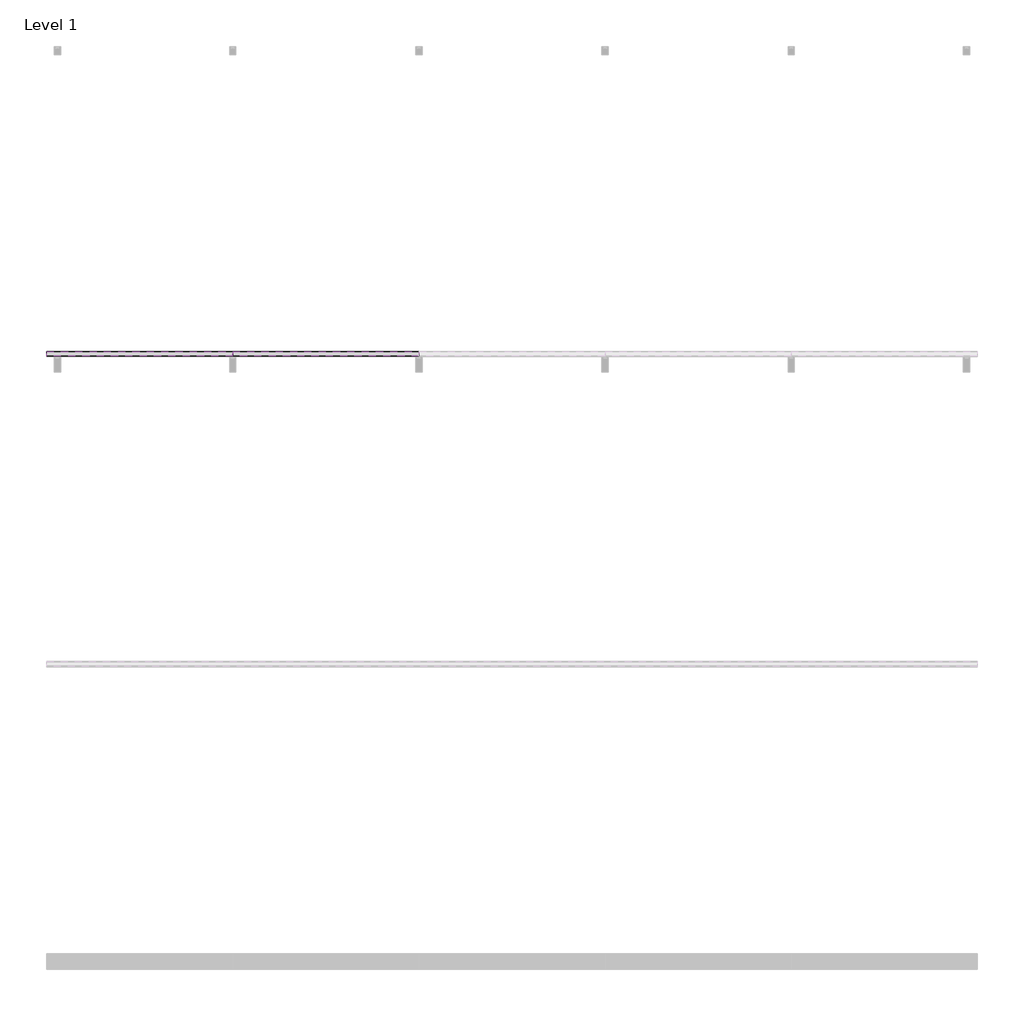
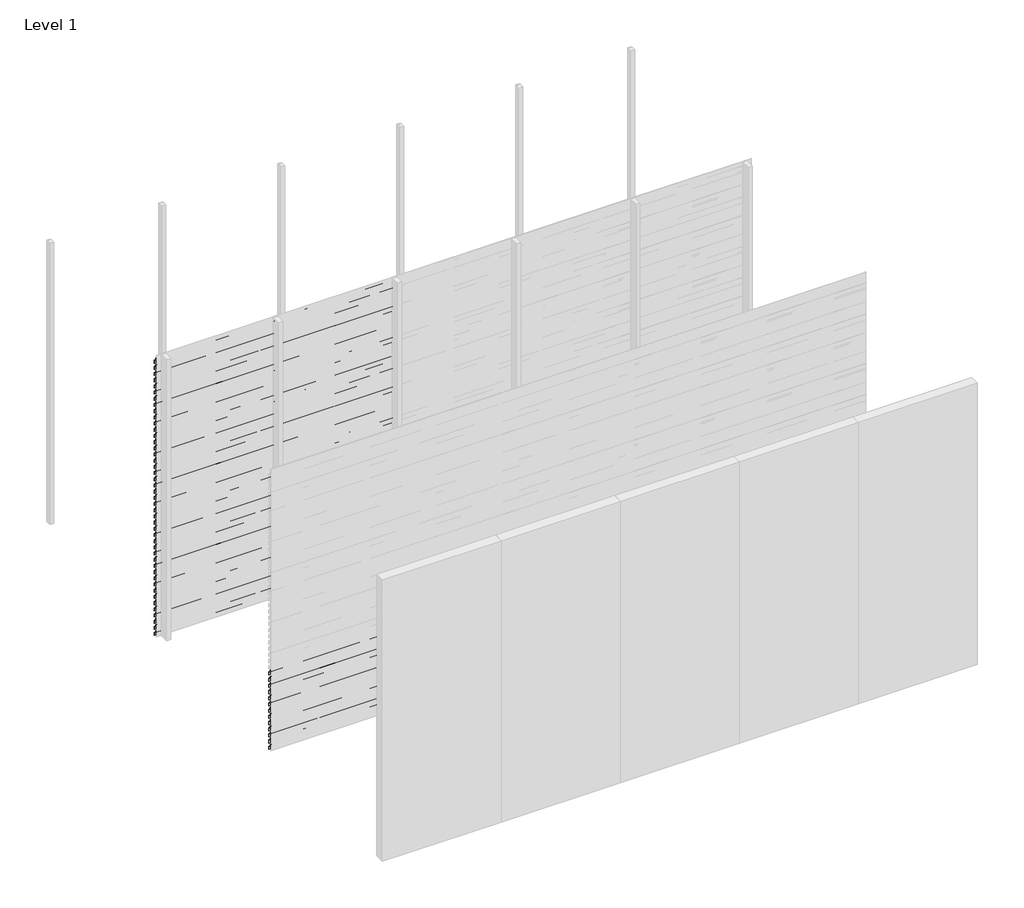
# One storey, part 13 of 33: 88 proxies.
"""IFC4 building model written with IfcOpenShell, lengths in millimetres."""

from ifc_helpers import new_model, si_unit, frame, origin, place, context, project, spatial, polyline, outline, extrude, element, save

model = new_model("IFC4")

# Units and contexts
model_context = context("Model", 3, world=origin())
ifc_project = project(units=[si_unit("LENGTHUNIT", "METRE", prefix="MILLI")], contexts=[model_context])

# Site, building, storey
site = spatial("IfcSite", under=ifc_project)
building = spatial("IfcBuilding", under=site)
storey = spatial("IfcBuildingStorey", under=building, Name="Level 1", Elevation=0.0)

# Proxies
placement = place(None, origin())
element("IfcBuildingElementProxy", 1, Name="Wall Sweeps", at=placement, inside=storey, context=model_context, shape_type="SweptSolid", body=[
    extrude(outline(polyline([(-35967.0, 2930.0), (-35967.0, 2897.0), (-35968.25, 2897.7216933), (-35968.25, 2929.2872415), (-35998.0, 2950.0588647), (-35998.0, 2970.0), (-35996.75, 2970.0), (-35996.75, 2950.7716232), (-35967.0, 2930.0)])), frame((0.0, 0.0, 0.0), z_axis=(1.0, 0.0, 0.0), x_axis=(0.0, 1.0, 0.0)), (0.0, 0.0, 1.0), 1200.0),
])
element("IfcBuildingElementProxy", 2, Name="Wall Sweeps", at=placement, inside=storey, context=model_context, shape_type="SweptSolid", body=[
    extrude(outline(polyline([(-35967.0, 2864.0), (-35967.0, 2831.0), (-35968.25, 2831.7216933), (-35968.25, 2863.2872415), (-35998.0, 2884.0588647), (-35998.0, 2904.0), (-35996.75, 2904.0), (-35996.75, 2884.7716232), (-35967.0, 2864.0)])), frame((0.0, 0.0, 0.0), z_axis=(1.0, 0.0, 0.0), x_axis=(0.0, 1.0, 0.0)), (0.0, 0.0, 1.0), 1200.0),
])
element("IfcBuildingElementProxy", 3, Name="Wall Sweeps", at=placement, inside=storey, context=model_context, shape_type="SweptSolid", body=[
    extrude(outline(polyline([(-35967.0, 2798.0), (-35967.0, 2765.0), (-35968.25, 2765.7216933), (-35968.25, 2797.2872415), (-35998.0, 2818.0588647), (-35998.0, 2838.0), (-35996.75, 2838.0), (-35996.75, 2818.7716232), (-35967.0, 2798.0)])), frame((0.0, 0.0, 0.0), z_axis=(1.0, 0.0, 0.0), x_axis=(0.0, 1.0, 0.0)), (0.0, 0.0, 1.0), 1200.0),
])
element("IfcBuildingElementProxy", 4, Name="Wall Sweeps", at=placement, inside=storey, context=model_context, shape_type="SweptSolid", body=[
    extrude(outline(polyline([(-35967.0, 2732.0), (-35967.0, 2699.0), (-35968.25, 2699.7216933), (-35968.25, 2731.2872415), (-35998.0, 2752.0588647), (-35998.0, 2772.0), (-35996.75, 2772.0), (-35996.75, 2752.7716232), (-35967.0, 2732.0)])), frame((0.0, 0.0, 0.0), z_axis=(1.0, 0.0, 0.0), x_axis=(0.0, 1.0, 0.0)), (0.0, 0.0, 1.0), 1200.0),
])
element("IfcBuildingElementProxy", 5, Name="Wall Sweeps", at=placement, inside=storey, context=model_context, shape_type="SweptSolid", body=[
    extrude(outline(polyline([(-35967.0, 2666.0), (-35967.0, 2633.0), (-35968.25, 2633.7216933), (-35968.25, 2665.2872415), (-35998.0, 2686.0588647), (-35998.0, 2706.0), (-35996.75, 2706.0), (-35996.75, 2686.7716232), (-35967.0, 2666.0)])), frame((0.0, 0.0, 0.0), z_axis=(1.0, 0.0, 0.0), x_axis=(0.0, 1.0, 0.0)), (0.0, 0.0, 1.0), 1200.0),
])
element("IfcBuildingElementProxy", 6, Name="Wall Sweeps", at=placement, inside=storey, context=model_context, shape_type="SweptSolid", body=[
    extrude(outline(polyline([(-35967.0, 2600.0), (-35967.0, 2567.0), (-35968.25, 2567.7216933), (-35968.25, 2599.2872415), (-35998.0, 2620.0588647), (-35998.0, 2640.0), (-35996.75, 2640.0), (-35996.75, 2620.7716232), (-35967.0, 2600.0)])), frame((0.0, 0.0, 0.0), z_axis=(1.0, 0.0, 0.0), x_axis=(0.0, 1.0, 0.0)), (0.0, 0.0, 1.0), 1200.0),
])
element("IfcBuildingElementProxy", 7, Name="Wall Sweeps", at=placement, inside=storey, context=model_context, shape_type="SweptSolid", body=[
    extrude(outline(polyline([(-35967.0, 2534.0), (-35967.0, 2501.0), (-35968.25, 2501.7216933), (-35968.25, 2533.2872415), (-35998.0, 2554.0588647), (-35998.0, 2574.0), (-35996.75, 2574.0), (-35996.75, 2554.7716232), (-35967.0, 2534.0)])), frame((0.0, 0.0, 0.0), z_axis=(1.0, 0.0, 0.0), x_axis=(0.0, 1.0, 0.0)), (0.0, 0.0, 1.0), 1200.0),
])
element("IfcBuildingElementProxy", 8, Name="Wall Sweeps", at=placement, inside=storey, context=model_context, shape_type="SweptSolid", body=[
    extrude(outline(polyline([(-35967.0, 2468.0), (-35967.0, 2435.0), (-35968.25, 2435.7216933), (-35968.25, 2467.2872415), (-35998.0, 2488.0588647), (-35998.0, 2508.0), (-35996.75, 2508.0), (-35996.75, 2488.7716232), (-35967.0, 2468.0)])), frame((0.0, 0.0, 0.0), z_axis=(1.0, 0.0, 0.0), x_axis=(0.0, 1.0, 0.0)), (0.0, 0.0, 1.0), 1200.0),
])
element("IfcBuildingElementProxy", 9, Name="Wall Sweeps", at=placement, inside=storey, context=model_context, shape_type="SweptSolid", body=[
    extrude(outline(polyline([(-35967.0, 2402.0), (-35967.0, 2369.0), (-35968.25, 2369.7216933), (-35968.25, 2401.2872415), (-35998.0, 2422.0588647), (-35998.0, 2442.0), (-35996.75, 2442.0), (-35996.75, 2422.7716232), (-35967.0, 2402.0)])), frame((0.0, 0.0, 0.0), z_axis=(1.0, 0.0, 0.0), x_axis=(0.0, 1.0, 0.0)), (0.0, 0.0, 1.0), 1200.0),
])
element("IfcBuildingElementProxy", 10, Name="Wall Sweeps", at=placement, inside=storey, context=model_context, shape_type="SweptSolid", body=[
    extrude(outline(polyline([(-35967.0, 2336.0), (-35967.0, 2303.0), (-35968.25, 2303.7216933), (-35968.25, 2335.2872415), (-35998.0, 2356.0588647), (-35998.0, 2376.0), (-35996.75, 2376.0), (-35996.75, 2356.7716232), (-35967.0, 2336.0)])), frame((0.0, 0.0, 0.0), z_axis=(1.0, 0.0, 0.0), x_axis=(0.0, 1.0, 0.0)), (0.0, 0.0, 1.0), 1200.0),
])
element("IfcBuildingElementProxy", 11, Name="Wall Sweeps", at=placement, inside=storey, context=model_context, shape_type="SweptSolid", body=[
    extrude(outline(polyline([(-35967.0, 2270.0), (-35967.0, 2237.0), (-35968.25, 2237.7216933), (-35968.25, 2269.2872415), (-35998.0, 2290.0588647), (-35998.0, 2310.0), (-35996.75, 2310.0), (-35996.75, 2290.7716232), (-35967.0, 2270.0)])), frame((0.0, 0.0, 0.0), z_axis=(1.0, 0.0, 0.0), x_axis=(0.0, 1.0, 0.0)), (0.0, 0.0, 1.0), 1200.0),
])
element("IfcBuildingElementProxy", 12, Name="Wall Sweeps", at=placement, inside=storey, context=model_context, shape_type="SweptSolid", body=[
    extrude(outline(polyline([(-35967.0, 2204.0), (-35967.0, 2171.0), (-35968.25, 2171.7216933), (-35968.25, 2203.2872415), (-35998.0, 2224.0588647), (-35998.0, 2244.0), (-35996.75, 2244.0), (-35996.75, 2224.7716232), (-35967.0, 2204.0)])), frame((0.0, 0.0, 0.0), z_axis=(1.0, 0.0, 0.0), x_axis=(0.0, 1.0, 0.0)), (0.0, 0.0, 1.0), 1200.0),
])
element("IfcBuildingElementProxy", 13, Name="Wall Sweeps", at=placement, inside=storey, context=model_context, shape_type="SweptSolid", body=[
    extrude(outline(polyline([(-35967.0, 2138.0), (-35967.0, 2105.0), (-35968.25, 2105.7216933), (-35968.25, 2137.2872415), (-35998.0, 2158.0588647), (-35998.0, 2178.0), (-35996.75, 2178.0), (-35996.75, 2158.7716232), (-35967.0, 2138.0)])), frame((0.0, 0.0, 0.0), z_axis=(1.0, 0.0, 0.0), x_axis=(0.0, 1.0, 0.0)), (0.0, 0.0, 1.0), 1200.0),
])
element("IfcBuildingElementProxy", 14, Name="Wall Sweeps", at=placement, inside=storey, context=model_context, shape_type="SweptSolid", body=[
    extrude(outline(polyline([(-35967.0, 2072.0), (-35967.0, 2039.0), (-35968.25, 2039.7216933), (-35968.25, 2071.2872415), (-35998.0, 2092.0588647), (-35998.0, 2112.0), (-35996.75, 2112.0), (-35996.75, 2092.7716232), (-35967.0, 2072.0)])), frame((0.0, 0.0, 0.0), z_axis=(1.0, 0.0, 0.0), x_axis=(0.0, 1.0, 0.0)), (0.0, 0.0, 1.0), 1200.0),
])
element("IfcBuildingElementProxy", 15, Name="Wall Sweeps", at=placement, inside=storey, context=model_context, shape_type="SweptSolid", body=[
    extrude(outline(polyline([(-35967.0, 2006.0), (-35967.0, 1973.0), (-35968.25, 1973.7216933), (-35968.25, 2005.2872415), (-35998.0, 2026.0588647), (-35998.0, 2046.0), (-35996.75, 2046.0), (-35996.75, 2026.7716232), (-35967.0, 2006.0)])), frame((0.0, 0.0, 0.0), z_axis=(1.0, 0.0, 0.0), x_axis=(0.0, 1.0, 0.0)), (0.0, 0.0, 1.0), 1200.0),
])
element("IfcBuildingElementProxy", 16, Name="Wall Sweeps", at=placement, inside=storey, context=model_context, shape_type="SweptSolid", body=[
    extrude(outline(polyline([(-35967.0, 1940.0), (-35967.0, 1907.0), (-35968.25, 1907.7216933), (-35968.25, 1939.2872415), (-35998.0, 1960.0588647), (-35998.0, 1980.0), (-35996.75, 1980.0), (-35996.75, 1960.7716232), (-35967.0, 1940.0)])), frame((0.0, 0.0, 0.0), z_axis=(1.0, 0.0, 0.0), x_axis=(0.0, 1.0, 0.0)), (0.0, 0.0, 1.0), 1200.0),
])
element("IfcBuildingElementProxy", 17, Name="Wall Sweeps", at=placement, inside=storey, context=model_context, shape_type="SweptSolid", body=[
    extrude(outline(polyline([(-35967.0, 1874.0), (-35967.0, 1841.0), (-35968.25, 1841.7216933), (-35968.25, 1873.2872415), (-35998.0, 1894.0588647), (-35998.0, 1914.0), (-35996.75, 1914.0), (-35996.75, 1894.7716232), (-35967.0, 1874.0)])), frame((0.0, 0.0, 0.0), z_axis=(1.0, 0.0, 0.0), x_axis=(0.0, 1.0, 0.0)), (0.0, 0.0, 1.0), 1200.0),
])
element("IfcBuildingElementProxy", 18, Name="Wall Sweeps", at=placement, inside=storey, context=model_context, shape_type="SweptSolid", body=[
    extrude(outline(polyline([(-35967.0, 1808.0), (-35967.0, 1775.0), (-35968.25, 1775.7216933), (-35968.25, 1807.2872415), (-35998.0, 1828.0588647), (-35998.0, 1848.0), (-35996.75, 1848.0), (-35996.75, 1828.7716232), (-35967.0, 1808.0)])), frame((0.0, 0.0, 0.0), z_axis=(1.0, 0.0, 0.0), x_axis=(0.0, 1.0, 0.0)), (0.0, 0.0, 1.0), 1200.0),
])
element("IfcBuildingElementProxy", 19, Name="Wall Sweeps", at=placement, inside=storey, context=model_context, shape_type="SweptSolid", body=[
    extrude(outline(polyline([(-35967.0, 1742.0), (-35967.0, 1709.0), (-35968.25, 1709.7216933), (-35968.25, 1741.2872415), (-35998.0, 1762.0588647), (-35998.0, 1782.0), (-35996.75, 1782.0), (-35996.75, 1762.7716232), (-35967.0, 1742.0)])), frame((0.0, 0.0, 0.0), z_axis=(1.0, 0.0, 0.0), x_axis=(0.0, 1.0, 0.0)), (0.0, 0.0, 1.0), 1200.0),
])
element("IfcBuildingElementProxy", 20, Name="Wall Sweeps", at=placement, inside=storey, context=model_context, shape_type="SweptSolid", body=[
    extrude(outline(polyline([(-35967.0, 1676.0), (-35967.0, 1643.0), (-35968.25, 1643.7216933), (-35968.25, 1675.2872415), (-35998.0, 1696.0588647), (-35998.0, 1716.0), (-35996.75, 1716.0), (-35996.75, 1696.7716232), (-35967.0, 1676.0)])), frame((0.0, 0.0, 0.0), z_axis=(1.0, 0.0, 0.0), x_axis=(0.0, 1.0, 0.0)), (0.0, 0.0, 1.0), 1200.0),
])
element("IfcBuildingElementProxy", 21, Name="Wall Sweeps", at=placement, inside=storey, context=model_context, shape_type="SweptSolid", body=[
    extrude(outline(polyline([(-35967.0, 1610.0), (-35967.0, 1577.0), (-35968.25, 1577.7216933), (-35968.25, 1609.2872415), (-35998.0, 1630.0588647), (-35998.0, 1650.0), (-35996.75, 1650.0), (-35996.75, 1630.7716232), (-35967.0, 1610.0)])), frame((0.0, 0.0, 0.0), z_axis=(1.0, 0.0, 0.0), x_axis=(0.0, 1.0, 0.0)), (0.0, 0.0, 1.0), 1200.0),
])
element("IfcBuildingElementProxy", 22, Name="Wall Sweeps", at=placement, inside=storey, context=model_context, shape_type="SweptSolid", body=[
    extrude(outline(polyline([(-35967.0, 1544.0), (-35967.0, 1511.0), (-35968.25, 1511.7216933), (-35968.25, 1543.2872415), (-35998.0, 1564.0588647), (-35998.0, 1584.0), (-35996.75, 1584.0), (-35996.75, 1564.7716232), (-35967.0, 1544.0)])), frame((0.0, 0.0, 0.0), z_axis=(1.0, 0.0, 0.0), x_axis=(0.0, 1.0, 0.0)), (0.0, 0.0, 1.0), 1200.0),
])
element("IfcBuildingElementProxy", 23, Name="Wall Sweeps", at=placement, inside=storey, context=model_context, shape_type="SweptSolid", body=[
    extrude(outline(polyline([(-35967.0, 1478.0), (-35967.0, 1445.0), (-35968.25, 1445.7216933), (-35968.25, 1477.2872415), (-35998.0, 1498.0588647), (-35998.0, 1518.0), (-35996.75, 1518.0), (-35996.75, 1498.7716232), (-35967.0, 1478.0)])), frame((0.0, 0.0, 0.0), z_axis=(1.0, 0.0, 0.0), x_axis=(0.0, 1.0, 0.0)), (0.0, 0.0, 1.0), 1200.0),
])
element("IfcBuildingElementProxy", 24, Name="Wall Sweeps", at=placement, inside=storey, context=model_context, shape_type="SweptSolid", body=[
    extrude(outline(polyline([(-35967.0, 1412.0), (-35967.0, 1379.0), (-35968.25, 1379.7216933), (-35968.25, 1411.2872415), (-35998.0, 1432.0588647), (-35998.0, 1452.0), (-35996.75, 1452.0), (-35996.75, 1432.7716232), (-35967.0, 1412.0)])), frame((0.0, 0.0, 0.0), z_axis=(1.0, 0.0, 0.0), x_axis=(0.0, 1.0, 0.0)), (0.0, 0.0, 1.0), 1200.0),
])
element("IfcBuildingElementProxy", 25, Name="Wall Sweeps", at=placement, inside=storey, context=model_context, shape_type="SweptSolid", body=[
    extrude(outline(polyline([(-35967.0, 1346.0), (-35967.0, 1313.0), (-35968.25, 1313.7216933), (-35968.25, 1345.2872415), (-35998.0, 1366.0588647), (-35998.0, 1386.0), (-35996.75, 1386.0), (-35996.75, 1366.7716232), (-35967.0, 1346.0)])), frame((0.0, 0.0, 0.0), z_axis=(1.0, 0.0, 0.0), x_axis=(0.0, 1.0, 0.0)), (0.0, 0.0, 1.0), 1200.0),
])
element("IfcBuildingElementProxy", 26, Name="Wall Sweeps", at=placement, inside=storey, context=model_context, shape_type="SweptSolid", body=[
    extrude(outline(polyline([(-35967.0, 1280.0), (-35967.0, 1247.0), (-35968.25, 1247.7216933), (-35968.25, 1279.2872415), (-35998.0, 1300.0588647), (-35998.0, 1320.0), (-35996.75, 1320.0), (-35996.75, 1300.7716232), (-35967.0, 1280.0)])), frame((0.0, 0.0, 0.0), z_axis=(1.0, 0.0, 0.0), x_axis=(0.0, 1.0, 0.0)), (0.0, 0.0, 1.0), 1200.0),
])
element("IfcBuildingElementProxy", 27, Name="Wall Sweeps", at=placement, inside=storey, context=model_context, shape_type="SweptSolid", body=[
    extrude(outline(polyline([(-35967.0, 1214.0), (-35967.0, 1181.0), (-35968.25, 1181.7216933), (-35968.25, 1213.2872415), (-35998.0, 1234.0588647), (-35998.0, 1254.0), (-35996.75, 1254.0), (-35996.75, 1234.7716232), (-35967.0, 1214.0)])), frame((0.0, 0.0, 0.0), z_axis=(1.0, 0.0, 0.0), x_axis=(0.0, 1.0, 0.0)), (0.0, 0.0, 1.0), 1200.0),
])
element("IfcBuildingElementProxy", 28, Name="Wall Sweeps", at=placement, inside=storey, context=model_context, shape_type="SweptSolid", body=[
    extrude(outline(polyline([(-35967.0, 1148.0), (-35967.0, 1115.0), (-35968.25, 1115.7216933), (-35968.25, 1147.2872415), (-35998.0, 1168.0588647), (-35998.0, 1188.0), (-35996.75, 1188.0), (-35996.75, 1168.7716232), (-35967.0, 1148.0)])), frame((0.0, 0.0, 0.0), z_axis=(1.0, 0.0, 0.0), x_axis=(0.0, 1.0, 0.0)), (0.0, 0.0, 1.0), 1200.0),
])
element("IfcBuildingElementProxy", 29, Name="Wall Sweeps", at=placement, inside=storey, context=model_context, shape_type="SweptSolid", body=[
    extrude(outline(polyline([(-35967.0, 1082.0), (-35967.0, 1049.0), (-35968.25, 1049.7216933), (-35968.25, 1081.2872415), (-35998.0, 1102.0588647), (-35998.0, 1122.0), (-35996.75, 1122.0), (-35996.75, 1102.7716232), (-35967.0, 1082.0)])), frame((0.0, 0.0, 0.0), z_axis=(1.0, 0.0, 0.0), x_axis=(0.0, 1.0, 0.0)), (0.0, 0.0, 1.0), 1200.0),
])
element("IfcBuildingElementProxy", 30, Name="Wall Sweeps", at=placement, inside=storey, context=model_context, shape_type="SweptSolid", body=[
    extrude(outline(polyline([(-35967.0, 1016.0), (-35967.0, 983.0), (-35968.25, 983.7216933), (-35968.25, 1015.2872415), (-35998.0, 1036.0588647), (-35998.0, 1056.0), (-35996.75, 1056.0), (-35996.75, 1036.7716232), (-35967.0, 1016.0)])), frame((0.0, 0.0, 0.0), z_axis=(1.0, 0.0, 0.0), x_axis=(0.0, 1.0, 0.0)), (0.0, 0.0, 1.0), 1200.0),
])
element("IfcBuildingElementProxy", 31, Name="Wall Sweeps", at=placement, inside=storey, context=model_context, shape_type="SweptSolid", body=[
    extrude(outline(polyline([(-35967.0, 950.0), (-35967.0, 917.0), (-35968.25, 917.7216933), (-35968.25, 949.2872415), (-35998.0, 970.0588647), (-35998.0, 990.0), (-35996.75, 990.0), (-35996.75, 970.7716232), (-35967.0, 950.0)])), frame((0.0, 0.0, 0.0), z_axis=(1.0, 0.0, 0.0), x_axis=(0.0, 1.0, 0.0)), (0.0, 0.0, 1.0), 1200.0),
])
element("IfcBuildingElementProxy", 32, Name="Wall Sweeps", at=placement, inside=storey, context=model_context, shape_type="SweptSolid", body=[
    extrude(outline(polyline([(-35967.0, 884.0), (-35967.0, 851.0), (-35968.25, 851.7216933), (-35968.25, 883.2872415), (-35998.0, 904.0588647), (-35998.0, 924.0), (-35996.75, 924.0), (-35996.75, 904.7716232), (-35967.0, 884.0)])), frame((0.0, 0.0, 0.0), z_axis=(1.0, 0.0, 0.0), x_axis=(0.0, 1.0, 0.0)), (0.0, 0.0, 1.0), 1200.0),
])
element("IfcBuildingElementProxy", 33, Name="Wall Sweeps", at=placement, inside=storey, context=model_context, shape_type="SweptSolid", body=[
    extrude(outline(polyline([(-35967.0, 818.0), (-35967.0, 785.0), (-35968.25, 785.7216933), (-35968.25, 817.2872415), (-35998.0, 838.0588647), (-35998.0, 858.0), (-35996.75, 858.0), (-35996.75, 838.7716232), (-35967.0, 818.0)])), frame((0.0, 0.0, 0.0), z_axis=(1.0, 0.0, 0.0), x_axis=(0.0, 1.0, 0.0)), (0.0, 0.0, 1.0), 1200.0),
])
element("IfcBuildingElementProxy", 34, Name="Wall Sweeps", at=placement, inside=storey, context=model_context, shape_type="SweptSolid", body=[
    extrude(outline(polyline([(-35967.0, 752.0), (-35967.0, 719.0), (-35968.25, 719.7216933), (-35968.25, 751.2872415), (-35998.0, 772.0588647), (-35998.0, 792.0), (-35996.75, 792.0), (-35996.75, 772.7716232), (-35967.0, 752.0)])), frame((0.0, 0.0, 0.0), z_axis=(1.0, 0.0, 0.0), x_axis=(0.0, 1.0, 0.0)), (0.0, 0.0, 1.0), 1200.0),
])
element("IfcBuildingElementProxy", 35, Name="Wall Sweeps", at=placement, inside=storey, context=model_context, shape_type="SweptSolid", body=[
    extrude(outline(polyline([(-35967.0, 686.0), (-35967.0, 653.0), (-35968.25, 653.7216933), (-35968.25, 685.2872415), (-35998.0, 706.0588647), (-35998.0, 726.0), (-35996.75, 726.0), (-35996.75, 706.7716232), (-35967.0, 686.0)])), frame((0.0, 0.0, 0.0), z_axis=(1.0, 0.0, 0.0), x_axis=(0.0, 1.0, 0.0)), (0.0, 0.0, 1.0), 1200.0),
])
element("IfcBuildingElementProxy", 36, Name="Wall Sweeps", at=placement, inside=storey, context=model_context, shape_type="SweptSolid", body=[
    extrude(outline(polyline([(-35967.0, 620.0), (-35967.0, 587.0), (-35968.25, 587.7216933), (-35968.25, 619.2872415), (-35998.0, 640.0588647), (-35998.0, 660.0), (-35996.75, 660.0), (-35996.75, 640.7716232), (-35967.0, 620.0)])), frame((0.0, 0.0, 0.0), z_axis=(1.0, 0.0, 0.0), x_axis=(0.0, 1.0, 0.0)), (0.0, 0.0, 1.0), 1200.0),
])
element("IfcBuildingElementProxy", 37, Name="Wall Sweeps", at=placement, inside=storey, context=model_context, shape_type="SweptSolid", body=[
    extrude(outline(polyline([(-35967.0, 554.0), (-35967.0, 521.0), (-35968.25, 521.7216933), (-35968.25, 553.2872415), (-35998.0, 574.0588647), (-35998.0, 594.0), (-35996.75, 594.0), (-35996.75, 574.7716232), (-35967.0, 554.0)])), frame((0.0, 0.0, 0.0), z_axis=(1.0, 0.0, 0.0), x_axis=(0.0, 1.0, 0.0)), (0.0, 0.0, 1.0), 1200.0),
])
element("IfcBuildingElementProxy", 38, Name="Wall Sweeps", at=placement, inside=storey, context=model_context, shape_type="SweptSolid", body=[
    extrude(outline(polyline([(-35967.0, 488.0), (-35967.0, 455.0), (-35968.25, 455.7216933), (-35968.25, 487.2872415), (-35998.0, 508.0588647), (-35998.0, 528.0), (-35996.75, 528.0), (-35996.75, 508.7716232), (-35967.0, 488.0)])), frame((0.0, 0.0, 0.0), z_axis=(1.0, 0.0, 0.0), x_axis=(0.0, 1.0, 0.0)), (0.0, 0.0, 1.0), 1200.0),
])
element("IfcBuildingElementProxy", 39, Name="Wall Sweeps", at=placement, inside=storey, context=model_context, shape_type="SweptSolid", body=[
    extrude(outline(polyline([(-35967.0, 422.0), (-35967.0, 389.0), (-35968.25, 389.7216933), (-35968.25, 421.2872415), (-35998.0, 442.0588647), (-35998.0, 462.0), (-35996.75, 462.0), (-35996.75, 442.7716232), (-35967.0, 422.0)])), frame((0.0, 0.0, 0.0), z_axis=(1.0, 0.0, 0.0), x_axis=(0.0, 1.0, 0.0)), (0.0, 0.0, 1.0), 1200.0),
])
element("IfcBuildingElementProxy", 40, Name="Wall Sweeps", at=placement, inside=storey, context=model_context, shape_type="SweptSolid", body=[
    extrude(outline(polyline([(-35967.0, 356.0), (-35967.0, 323.0), (-35968.25, 323.7216933), (-35968.25, 355.2872415), (-35998.0, 376.0588647), (-35998.0, 396.0), (-35996.75, 396.0), (-35996.75, 376.7716232), (-35967.0, 356.0)])), frame((0.0, 0.0, 0.0), z_axis=(1.0, 0.0, 0.0), x_axis=(0.0, 1.0, 0.0)), (0.0, 0.0, 1.0), 1200.0),
])
element("IfcBuildingElementProxy", 41, Name="Wall Sweeps", at=placement, inside=storey, context=model_context, shape_type="SweptSolid", body=[
    extrude(outline(polyline([(-35967.0, 290.0), (-35967.0, 257.0), (-35968.25, 257.7216933), (-35968.25, 289.2872415), (-35998.0, 310.0588647), (-35998.0, 330.0), (-35996.75, 330.0), (-35996.75, 310.7716232), (-35967.0, 290.0)])), frame((0.0, 0.0, 0.0), z_axis=(1.0, 0.0, 0.0), x_axis=(0.0, 1.0, 0.0)), (0.0, 0.0, 1.0), 1200.0),
])
element("IfcBuildingElementProxy", 42, Name="Wall Sweeps", at=placement, inside=storey, context=model_context, shape_type="SweptSolid", body=[
    extrude(outline(polyline([(-35967.0, 224.0), (-35967.0, 191.0), (-35968.25, 191.7216933), (-35968.25, 223.2872415), (-35998.0, 244.0588647), (-35998.0, 264.0), (-35996.75, 264.0), (-35996.75, 244.7716232), (-35967.0, 224.0)])), frame((0.0, 0.0, 0.0), z_axis=(1.0, 0.0, 0.0), x_axis=(0.0, 1.0, 0.0)), (0.0, 0.0, 1.0), 1200.0),
])
element("IfcBuildingElementProxy", 43, Name="Wall Sweeps", at=placement, inside=storey, context=model_context, shape_type="SweptSolid", body=[
    extrude(outline(polyline([(-35967.0, 158.0), (-35967.0, 125.0), (-35968.25, 125.7216933), (-35968.25, 157.2872415), (-35998.0, 178.0588647), (-35998.0, 198.0), (-35996.75, 198.0), (-35996.75, 178.7716232), (-35967.0, 158.0)])), frame((0.0, 0.0, 0.0), z_axis=(1.0, 0.0, 0.0), x_axis=(0.0, 1.0, 0.0)), (0.0, 0.0, 1.0), 1200.0),
])
element("IfcBuildingElementProxy", 44, Name="Wall Sweeps", at=placement, inside=storey, context=model_context, shape_type="SweptSolid", body=[
    extrude(outline(polyline([(-35967.0, 92.0), (-35967.0, 59.0), (-35968.25, 59.7216933), (-35968.25, 91.2872415), (-35998.0, 112.0588647), (-35998.0, 132.0), (-35996.75, 132.0), (-35996.75, 112.7716232), (-35967.0, 92.0)])), frame((0.0, 0.0, 0.0), z_axis=(1.0, 0.0, 0.0), x_axis=(0.0, 1.0, 0.0)), (0.0, 0.0, 1.0), 1200.0),
])
element("IfcBuildingElementProxy", 45, Name="Wall Sweeps", at=placement, inside=storey, context=model_context, shape_type="SweptSolid", body=[
    extrude(outline(polyline([(-35967.0, 26.0), (-35967.0, -7.0), (-35968.25, -6.2783067), (-35968.25, 25.2872415), (-35998.0, 46.0588647), (-35998.0, 66.0), (-35996.75, 66.0), (-35996.75, 46.7716232), (-35967.0, 26.0)])), frame((0.0, 0.0, 0.0), z_axis=(1.0, 0.0, 0.0), x_axis=(0.0, 1.0, 0.0)), (0.0, 0.0, 1.0), 1200.0),
])
element("IfcBuildingElementProxy", 46, Name="Wall Sweeps", at=placement, inside=storey, context=model_context, shape_type="SweptSolid", body=[
    extrude(outline(polyline([(-35967.0, 2930.0), (-35967.0, 2897.0), (-35968.25, 2897.7216933), (-35968.25, 2929.2872415), (-35998.0, 2950.0588647), (-35998.0, 2970.0), (-35996.75, 2970.0), (-35996.75, 2950.7716232), (-35967.0, 2930.0)])), frame((1200.0, 0.0, 0.0), z_axis=(1.0, 0.0, 0.0), x_axis=(0.0, 1.0, 0.0)), (0.0, 0.0, 1.0), 1200.0),
])
element("IfcBuildingElementProxy", 47, Name="Wall Sweeps", at=placement, inside=storey, context=model_context, shape_type="SweptSolid", body=[
    extrude(outline(polyline([(-35967.0, 2864.0), (-35967.0, 2831.0), (-35968.25, 2831.7216933), (-35968.25, 2863.2872415), (-35998.0, 2884.0588647), (-35998.0, 2904.0), (-35996.75, 2904.0), (-35996.75, 2884.7716232), (-35967.0, 2864.0)])), frame((1200.0, 0.0, 0.0), z_axis=(1.0, 0.0, 0.0), x_axis=(0.0, 1.0, 0.0)), (0.0, 0.0, 1.0), 1200.0),
])
element("IfcBuildingElementProxy", 48, Name="Wall Sweeps", at=placement, inside=storey, context=model_context, shape_type="SweptSolid", body=[
    extrude(outline(polyline([(-35967.0, 2798.0), (-35967.0, 2765.0), (-35968.25, 2765.7216933), (-35968.25, 2797.2872415), (-35998.0, 2818.0588647), (-35998.0, 2838.0), (-35996.75, 2838.0), (-35996.75, 2818.7716232), (-35967.0, 2798.0)])), frame((1200.0, 0.0, 0.0), z_axis=(1.0, 0.0, 0.0), x_axis=(0.0, 1.0, 0.0)), (0.0, 0.0, 1.0), 1200.0),
])
element("IfcBuildingElementProxy", 49, Name="Wall Sweeps", at=placement, inside=storey, context=model_context, shape_type="SweptSolid", body=[
    extrude(outline(polyline([(-35967.0, 2732.0), (-35967.0, 2699.0), (-35968.25, 2699.7216933), (-35968.25, 2731.2872415), (-35998.0, 2752.0588647), (-35998.0, 2772.0), (-35996.75, 2772.0), (-35996.75, 2752.7716232), (-35967.0, 2732.0)])), frame((1200.0, 0.0, 0.0), z_axis=(1.0, 0.0, 0.0), x_axis=(0.0, 1.0, 0.0)), (0.0, 0.0, 1.0), 1200.0),
])
element("IfcBuildingElementProxy", 50, Name="Wall Sweeps", at=placement, inside=storey, context=model_context, shape_type="SweptSolid", body=[
    extrude(outline(polyline([(-35967.0, 2666.0), (-35967.0, 2633.0), (-35968.25, 2633.7216933), (-35968.25, 2665.2872415), (-35998.0, 2686.0588647), (-35998.0, 2706.0), (-35996.75, 2706.0), (-35996.75, 2686.7716232), (-35967.0, 2666.0)])), frame((1200.0, 0.0, 0.0), z_axis=(1.0, 0.0, 0.0), x_axis=(0.0, 1.0, 0.0)), (0.0, 0.0, 1.0), 1200.0),
])
element("IfcBuildingElementProxy", 51, Name="Wall Sweeps", at=placement, inside=storey, context=model_context, shape_type="SweptSolid", body=[
    extrude(outline(polyline([(-35967.0, 2600.0), (-35967.0, 2567.0), (-35968.25, 2567.7216933), (-35968.25, 2599.2872415), (-35998.0, 2620.0588647), (-35998.0, 2640.0), (-35996.75, 2640.0), (-35996.75, 2620.7716232), (-35967.0, 2600.0)])), frame((1200.0, 0.0, 0.0), z_axis=(1.0, 0.0, 0.0), x_axis=(0.0, 1.0, 0.0)), (0.0, 0.0, 1.0), 1200.0),
])
element("IfcBuildingElementProxy", 52, Name="Wall Sweeps", at=placement, inside=storey, context=model_context, shape_type="SweptSolid", body=[
    extrude(outline(polyline([(-35967.0, 2534.0), (-35967.0, 2501.0), (-35968.25, 2501.7216933), (-35968.25, 2533.2872415), (-35998.0, 2554.0588647), (-35998.0, 2574.0), (-35996.75, 2574.0), (-35996.75, 2554.7716232), (-35967.0, 2534.0)])), frame((1200.0, 0.0, 0.0), z_axis=(1.0, 0.0, 0.0), x_axis=(0.0, 1.0, 0.0)), (0.0, 0.0, 1.0), 1200.0),
])
element("IfcBuildingElementProxy", 53, Name="Wall Sweeps", at=placement, inside=storey, context=model_context, shape_type="SweptSolid", body=[
    extrude(outline(polyline([(-35967.0, 2468.0), (-35967.0, 2435.0), (-35968.25, 2435.7216933), (-35968.25, 2467.2872415), (-35998.0, 2488.0588647), (-35998.0, 2508.0), (-35996.75, 2508.0), (-35996.75, 2488.7716232), (-35967.0, 2468.0)])), frame((1200.0, 0.0, 0.0), z_axis=(1.0, 0.0, 0.0), x_axis=(0.0, 1.0, 0.0)), (0.0, 0.0, 1.0), 1200.0),
])
element("IfcBuildingElementProxy", 54, Name="Wall Sweeps", at=placement, inside=storey, context=model_context, shape_type="SweptSolid", body=[
    extrude(outline(polyline([(-35967.0, 2402.0), (-35967.0, 2369.0), (-35968.25, 2369.7216933), (-35968.25, 2401.2872415), (-35998.0, 2422.0588647), (-35998.0, 2442.0), (-35996.75, 2442.0), (-35996.75, 2422.7716232), (-35967.0, 2402.0)])), frame((1200.0, 0.0, 0.0), z_axis=(1.0, 0.0, 0.0), x_axis=(0.0, 1.0, 0.0)), (0.0, 0.0, 1.0), 1200.0),
])
element("IfcBuildingElementProxy", 55, Name="Wall Sweeps", at=placement, inside=storey, context=model_context, shape_type="SweptSolid", body=[
    extrude(outline(polyline([(-35967.0, 2336.0), (-35967.0, 2303.0), (-35968.25, 2303.7216933), (-35968.25, 2335.2872415), (-35998.0, 2356.0588647), (-35998.0, 2376.0), (-35996.75, 2376.0), (-35996.75, 2356.7716232), (-35967.0, 2336.0)])), frame((1200.0, 0.0, 0.0), z_axis=(1.0, 0.0, 0.0), x_axis=(0.0, 1.0, 0.0)), (0.0, 0.0, 1.0), 1200.0),
])
element("IfcBuildingElementProxy", 56, Name="Wall Sweeps", at=placement, inside=storey, context=model_context, shape_type="SweptSolid", body=[
    extrude(outline(polyline([(-35967.0, 2270.0), (-35967.0, 2237.0), (-35968.25, 2237.7216933), (-35968.25, 2269.2872415), (-35998.0, 2290.0588647), (-35998.0, 2310.0), (-35996.75, 2310.0), (-35996.75, 2290.7716232), (-35967.0, 2270.0)])), frame((1200.0, 0.0, 0.0), z_axis=(1.0, 0.0, 0.0), x_axis=(0.0, 1.0, 0.0)), (0.0, 0.0, 1.0), 1200.0),
])
element("IfcBuildingElementProxy", 57, Name="Wall Sweeps", at=placement, inside=storey, context=model_context, shape_type="SweptSolid", body=[
    extrude(outline(polyline([(-35967.0, 2204.0), (-35967.0, 2171.0), (-35968.25, 2171.7216933), (-35968.25, 2203.2872415), (-35998.0, 2224.0588647), (-35998.0, 2244.0), (-35996.75, 2244.0), (-35996.75, 2224.7716232), (-35967.0, 2204.0)])), frame((1200.0, 0.0, 0.0), z_axis=(1.0, 0.0, 0.0), x_axis=(0.0, 1.0, 0.0)), (0.0, 0.0, 1.0), 1200.0),
])
element("IfcBuildingElementProxy", 58, Name="Wall Sweeps", at=placement, inside=storey, context=model_context, shape_type="SweptSolid", body=[
    extrude(outline(polyline([(-35967.0, 2138.0), (-35967.0, 2105.0), (-35968.25, 2105.7216933), (-35968.25, 2137.2872415), (-35998.0, 2158.0588647), (-35998.0, 2178.0), (-35996.75, 2178.0), (-35996.75, 2158.7716232), (-35967.0, 2138.0)])), frame((1200.0, 0.0, 0.0), z_axis=(1.0, 0.0, 0.0), x_axis=(0.0, 1.0, 0.0)), (0.0, 0.0, 1.0), 1200.0),
])
element("IfcBuildingElementProxy", 59, Name="Wall Sweeps", at=placement, inside=storey, context=model_context, shape_type="SweptSolid", body=[
    extrude(outline(polyline([(-35967.0, 2072.0), (-35967.0, 2039.0), (-35968.25, 2039.7216933), (-35968.25, 2071.2872415), (-35998.0, 2092.0588647), (-35998.0, 2112.0), (-35996.75, 2112.0), (-35996.75, 2092.7716232), (-35967.0, 2072.0)])), frame((1200.0, 0.0, 0.0), z_axis=(1.0, 0.0, 0.0), x_axis=(0.0, 1.0, 0.0)), (0.0, 0.0, 1.0), 1200.0),
])
element("IfcBuildingElementProxy", 60, Name="Wall Sweeps", at=placement, inside=storey, context=model_context, shape_type="SweptSolid", body=[
    extrude(outline(polyline([(-35967.0, 2006.0), (-35967.0, 1973.0), (-35968.25, 1973.7216933), (-35968.25, 2005.2872415), (-35998.0, 2026.0588647), (-35998.0, 2046.0), (-35996.75, 2046.0), (-35996.75, 2026.7716232), (-35967.0, 2006.0)])), frame((1200.0, 0.0, 0.0), z_axis=(1.0, 0.0, 0.0), x_axis=(0.0, 1.0, 0.0)), (0.0, 0.0, 1.0), 1200.0),
])
element("IfcBuildingElementProxy", 61, Name="Wall Sweeps", at=placement, inside=storey, context=model_context, shape_type="SweptSolid", body=[
    extrude(outline(polyline([(-35967.0, 1940.0), (-35967.0, 1907.0), (-35968.25, 1907.7216933), (-35968.25, 1939.2872415), (-35998.0, 1960.0588647), (-35998.0, 1980.0), (-35996.75, 1980.0), (-35996.75, 1960.7716232), (-35967.0, 1940.0)])), frame((1200.0, 0.0, 0.0), z_axis=(1.0, 0.0, 0.0), x_axis=(0.0, 1.0, 0.0)), (0.0, 0.0, 1.0), 1200.0),
])
element("IfcBuildingElementProxy", 62, Name="Wall Sweeps", at=placement, inside=storey, context=model_context, shape_type="SweptSolid", body=[
    extrude(outline(polyline([(-35967.0, 1874.0), (-35967.0, 1841.0), (-35968.25, 1841.7216933), (-35968.25, 1873.2872415), (-35998.0, 1894.0588647), (-35998.0, 1914.0), (-35996.75, 1914.0), (-35996.75, 1894.7716232), (-35967.0, 1874.0)])), frame((1200.0, 0.0, 0.0), z_axis=(1.0, 0.0, 0.0), x_axis=(0.0, 1.0, 0.0)), (0.0, 0.0, 1.0), 1200.0),
])
element("IfcBuildingElementProxy", 63, Name="Wall Sweeps", at=placement, inside=storey, context=model_context, shape_type="SweptSolid", body=[
    extrude(outline(polyline([(-35967.0, 1808.0), (-35967.0, 1775.0), (-35968.25, 1775.7216933), (-35968.25, 1807.2872415), (-35998.0, 1828.0588647), (-35998.0, 1848.0), (-35996.75, 1848.0), (-35996.75, 1828.7716232), (-35967.0, 1808.0)])), frame((1200.0, 0.0, 0.0), z_axis=(1.0, 0.0, 0.0), x_axis=(0.0, 1.0, 0.0)), (0.0, 0.0, 1.0), 1200.0),
])
element("IfcBuildingElementProxy", 64, Name="Wall Sweeps", at=placement, inside=storey, context=model_context, shape_type="SweptSolid", body=[
    extrude(outline(polyline([(-35967.0, 1742.0), (-35967.0, 1709.0), (-35968.25, 1709.7216933), (-35968.25, 1741.2872415), (-35998.0, 1762.0588647), (-35998.0, 1782.0), (-35996.75, 1782.0), (-35996.75, 1762.7716232), (-35967.0, 1742.0)])), frame((1200.0, 0.0, 0.0), z_axis=(1.0, 0.0, 0.0), x_axis=(0.0, 1.0, 0.0)), (0.0, 0.0, 1.0), 1200.0),
])
element("IfcBuildingElementProxy", 65, Name="Wall Sweeps", at=placement, inside=storey, context=model_context, shape_type="SweptSolid", body=[
    extrude(outline(polyline([(-35967.0, 1676.0), (-35967.0, 1643.0), (-35968.25, 1643.7216933), (-35968.25, 1675.2872415), (-35998.0, 1696.0588647), (-35998.0, 1716.0), (-35996.75, 1716.0), (-35996.75, 1696.7716232), (-35967.0, 1676.0)])), frame((1200.0, 0.0, 0.0), z_axis=(1.0, 0.0, 0.0), x_axis=(0.0, 1.0, 0.0)), (0.0, 0.0, 1.0), 1200.0),
])
element("IfcBuildingElementProxy", 66, Name="Wall Sweeps", at=placement, inside=storey, context=model_context, shape_type="SweptSolid", body=[
    extrude(outline(polyline([(-35967.0, 1610.0), (-35967.0, 1577.0), (-35968.25, 1577.7216933), (-35968.25, 1609.2872415), (-35998.0, 1630.0588647), (-35998.0, 1650.0), (-35996.75, 1650.0), (-35996.75, 1630.7716232), (-35967.0, 1610.0)])), frame((1200.0, 0.0, 0.0), z_axis=(1.0, 0.0, 0.0), x_axis=(0.0, 1.0, 0.0)), (0.0, 0.0, 1.0), 1200.0),
])
element("IfcBuildingElementProxy", 67, Name="Wall Sweeps", at=placement, inside=storey, context=model_context, shape_type="SweptSolid", body=[
    extrude(outline(polyline([(-35967.0, 1544.0), (-35967.0, 1511.0), (-35968.25, 1511.7216933), (-35968.25, 1543.2872415), (-35998.0, 1564.0588647), (-35998.0, 1584.0), (-35996.75, 1584.0), (-35996.75, 1564.7716232), (-35967.0, 1544.0)])), frame((1200.0, 0.0, 0.0), z_axis=(1.0, 0.0, 0.0), x_axis=(0.0, 1.0, 0.0)), (0.0, 0.0, 1.0), 1200.0),
])
element("IfcBuildingElementProxy", 68, Name="Wall Sweeps", at=placement, inside=storey, context=model_context, shape_type="SweptSolid", body=[
    extrude(outline(polyline([(-35967.0, 1478.0), (-35967.0, 1445.0), (-35968.25, 1445.7216933), (-35968.25, 1477.2872415), (-35998.0, 1498.0588647), (-35998.0, 1518.0), (-35996.75, 1518.0), (-35996.75, 1498.7716232), (-35967.0, 1478.0)])), frame((1200.0, 0.0, 0.0), z_axis=(1.0, 0.0, 0.0), x_axis=(0.0, 1.0, 0.0)), (0.0, 0.0, 1.0), 1200.0),
])
element("IfcBuildingElementProxy", 69, Name="Wall Sweeps", at=placement, inside=storey, context=model_context, shape_type="SweptSolid", body=[
    extrude(outline(polyline([(-35967.0, 1412.0), (-35967.0, 1379.0), (-35968.25, 1379.7216933), (-35968.25, 1411.2872415), (-35998.0, 1432.0588647), (-35998.0, 1452.0), (-35996.75, 1452.0), (-35996.75, 1432.7716232), (-35967.0, 1412.0)])), frame((1200.0, 0.0, 0.0), z_axis=(1.0, 0.0, 0.0), x_axis=(0.0, 1.0, 0.0)), (0.0, 0.0, 1.0), 1200.0),
])
element("IfcBuildingElementProxy", 70, Name="Wall Sweeps", at=placement, inside=storey, context=model_context, shape_type="SweptSolid", body=[
    extrude(outline(polyline([(-35967.0, 1346.0), (-35967.0, 1313.0), (-35968.25, 1313.7216933), (-35968.25, 1345.2872415), (-35998.0, 1366.0588647), (-35998.0, 1386.0), (-35996.75, 1386.0), (-35996.75, 1366.7716232), (-35967.0, 1346.0)])), frame((1200.0, 0.0, 0.0), z_axis=(1.0, 0.0, 0.0), x_axis=(0.0, 1.0, 0.0)), (0.0, 0.0, 1.0), 1200.0),
])
element("IfcBuildingElementProxy", 71, Name="Wall Sweeps", at=placement, inside=storey, context=model_context, shape_type="SweptSolid", body=[
    extrude(outline(polyline([(-35967.0, 1280.0), (-35967.0, 1247.0), (-35968.25, 1247.7216933), (-35968.25, 1279.2872415), (-35998.0, 1300.0588647), (-35998.0, 1320.0), (-35996.75, 1320.0), (-35996.75, 1300.7716232), (-35967.0, 1280.0)])), frame((1200.0, 0.0, 0.0), z_axis=(1.0, 0.0, 0.0), x_axis=(0.0, 1.0, 0.0)), (0.0, 0.0, 1.0), 1200.0),
])
element("IfcBuildingElementProxy", 72, Name="Wall Sweeps", at=placement, inside=storey, context=model_context, shape_type="SweptSolid", body=[
    extrude(outline(polyline([(-35967.0, 1214.0), (-35967.0, 1181.0), (-35968.25, 1181.7216933), (-35968.25, 1213.2872415), (-35998.0, 1234.0588647), (-35998.0, 1254.0), (-35996.75, 1254.0), (-35996.75, 1234.7716232), (-35967.0, 1214.0)])), frame((1200.0, 0.0, 0.0), z_axis=(1.0, 0.0, 0.0), x_axis=(0.0, 1.0, 0.0)), (0.0, 0.0, 1.0), 1200.0),
])
element("IfcBuildingElementProxy", 73, Name="Wall Sweeps", at=placement, inside=storey, context=model_context, shape_type="SweptSolid", body=[
    extrude(outline(polyline([(-35967.0, 1148.0), (-35967.0, 1115.0), (-35968.25, 1115.7216933), (-35968.25, 1147.2872415), (-35998.0, 1168.0588647), (-35998.0, 1188.0), (-35996.75, 1188.0), (-35996.75, 1168.7716232), (-35967.0, 1148.0)])), frame((1200.0, 0.0, 0.0), z_axis=(1.0, 0.0, 0.0), x_axis=(0.0, 1.0, 0.0)), (0.0, 0.0, 1.0), 1200.0),
])
element("IfcBuildingElementProxy", 74, Name="Wall Sweeps", at=placement, inside=storey, context=model_context, shape_type="SweptSolid", body=[
    extrude(outline(polyline([(-35967.0, 1082.0), (-35967.0, 1049.0), (-35968.25, 1049.7216933), (-35968.25, 1081.2872415), (-35998.0, 1102.0588647), (-35998.0, 1122.0), (-35996.75, 1122.0), (-35996.75, 1102.7716232), (-35967.0, 1082.0)])), frame((1200.0, 0.0, 0.0), z_axis=(1.0, 0.0, 0.0), x_axis=(0.0, 1.0, 0.0)), (0.0, 0.0, 1.0), 1200.0),
])
element("IfcBuildingElementProxy", 75, Name="Wall Sweeps", at=placement, inside=storey, context=model_context, shape_type="SweptSolid", body=[
    extrude(outline(polyline([(-35967.0, 1016.0), (-35967.0, 983.0), (-35968.25, 983.7216933), (-35968.25, 1015.2872415), (-35998.0, 1036.0588647), (-35998.0, 1056.0), (-35996.75, 1056.0), (-35996.75, 1036.7716232), (-35967.0, 1016.0)])), frame((1200.0, 0.0, 0.0), z_axis=(1.0, 0.0, 0.0), x_axis=(0.0, 1.0, 0.0)), (0.0, 0.0, 1.0), 1200.0),
])
element("IfcBuildingElementProxy", 76, Name="Wall Sweeps", at=placement, inside=storey, context=model_context, shape_type="SweptSolid", body=[
    extrude(outline(polyline([(-37967.0, 818.0), (-37967.0, 785.0), (-37968.25, 785.7216933), (-37968.25, 817.2872415), (-37998.0, 838.0588647), (-37998.0, 858.0), (-37996.75, 858.0), (-37996.75, 838.7716232), (-37967.0, 818.0)])), frame((0.0, 0.0, 0.0), z_axis=(1.0, 0.0, 0.0), x_axis=(0.0, 1.0, 0.0)), (0.0, 0.0, 1.0), 6000.0),
])
element("IfcBuildingElementProxy", 77, Name="Wall Sweeps", at=placement, inside=storey, context=model_context, shape_type="SweptSolid", body=[
    extrude(outline(polyline([(-37967.0, 752.0), (-37967.0, 719.0), (-37968.25, 719.7216933), (-37968.25, 751.2872415), (-37998.0, 772.0588647), (-37998.0, 792.0), (-37996.75, 792.0), (-37996.75, 772.7716232), (-37967.0, 752.0)])), frame((0.0, 0.0, 0.0), z_axis=(1.0, 0.0, 0.0), x_axis=(0.0, 1.0, 0.0)), (0.0, 0.0, 1.0), 6000.0),
])
element("IfcBuildingElementProxy", 78, Name="Wall Sweeps", at=placement, inside=storey, context=model_context, shape_type="SweptSolid", body=[
    extrude(outline(polyline([(-37967.0, 686.0), (-37967.0, 653.0), (-37968.25, 653.7216933), (-37968.25, 685.2872415), (-37998.0, 706.0588647), (-37998.0, 726.0), (-37996.75, 726.0), (-37996.75, 706.7716232), (-37967.0, 686.0)])), frame((0.0, 0.0, 0.0), z_axis=(1.0, 0.0, 0.0), x_axis=(0.0, 1.0, 0.0)), (0.0, 0.0, 1.0), 6000.0),
])
element("IfcBuildingElementProxy", 79, Name="Wall Sweeps", at=placement, inside=storey, context=model_context, shape_type="SweptSolid", body=[
    extrude(outline(polyline([(-37967.0, 620.0), (-37967.0, 587.0), (-37968.25, 587.7216933), (-37968.25, 619.2872415), (-37998.0, 640.0588647), (-37998.0, 660.0), (-37996.75, 660.0), (-37996.75, 640.7716232), (-37967.0, 620.0)])), frame((0.0, 0.0, 0.0), z_axis=(1.0, 0.0, 0.0), x_axis=(0.0, 1.0, 0.0)), (0.0, 0.0, 1.0), 6000.0),
])
element("IfcBuildingElementProxy", 80, Name="Wall Sweeps", at=placement, inside=storey, context=model_context, shape_type="SweptSolid", body=[
    extrude(outline(polyline([(-37967.0, 554.0), (-37967.0, 521.0), (-37968.25, 521.7216933), (-37968.25, 553.2872415), (-37998.0, 574.0588647), (-37998.0, 594.0), (-37996.75, 594.0), (-37996.75, 574.7716232), (-37967.0, 554.0)])), frame((0.0, 0.0, 0.0), z_axis=(1.0, 0.0, 0.0), x_axis=(0.0, 1.0, 0.0)), (0.0, 0.0, 1.0), 6000.0),
])
element("IfcBuildingElementProxy", 81, Name="Wall Sweeps", at=placement, inside=storey, context=model_context, shape_type="SweptSolid", body=[
    extrude(outline(polyline([(-37967.0, 488.0), (-37967.0, 455.0), (-37968.25, 455.7216933), (-37968.25, 487.2872415), (-37998.0, 508.0588647), (-37998.0, 528.0), (-37996.75, 528.0), (-37996.75, 508.7716232), (-37967.0, 488.0)])), frame((0.0, 0.0, 0.0), z_axis=(1.0, 0.0, 0.0), x_axis=(0.0, 1.0, 0.0)), (0.0, 0.0, 1.0), 6000.0),
])
element("IfcBuildingElementProxy", 82, Name="Wall Sweeps", at=placement, inside=storey, context=model_context, shape_type="SweptSolid", body=[
    extrude(outline(polyline([(-37967.0, 422.0), (-37967.0, 389.0), (-37968.25, 389.7216933), (-37968.25, 421.2872415), (-37998.0, 442.0588647), (-37998.0, 462.0), (-37996.75, 462.0), (-37996.75, 442.7716232), (-37967.0, 422.0)])), frame((0.0, 0.0, 0.0), z_axis=(1.0, 0.0, 0.0), x_axis=(0.0, 1.0, 0.0)), (0.0, 0.0, 1.0), 6000.0),
])
element("IfcBuildingElementProxy", 83, Name="Wall Sweeps", at=placement, inside=storey, context=model_context, shape_type="SweptSolid", body=[
    extrude(outline(polyline([(-37967.0, 356.0), (-37967.0, 323.0), (-37968.25, 323.7216933), (-37968.25, 355.2872415), (-37998.0, 376.0588647), (-37998.0, 396.0), (-37996.75, 396.0), (-37996.75, 376.7716232), (-37967.0, 356.0)])), frame((0.0, 0.0, 0.0), z_axis=(1.0, 0.0, 0.0), x_axis=(0.0, 1.0, 0.0)), (0.0, 0.0, 1.0), 6000.0),
])
element("IfcBuildingElementProxy", 84, Name="Wall Sweeps", at=placement, inside=storey, context=model_context, shape_type="SweptSolid", body=[
    extrude(outline(polyline([(-37967.0, 290.0), (-37967.0, 257.0), (-37968.25, 257.7216933), (-37968.25, 289.2872415), (-37998.0, 310.0588647), (-37998.0, 330.0), (-37996.75, 330.0), (-37996.75, 310.7716232), (-37967.0, 290.0)])), frame((0.0, 0.0, 0.0), z_axis=(1.0, 0.0, 0.0), x_axis=(0.0, 1.0, 0.0)), (0.0, 0.0, 1.0), 6000.0),
])
element("IfcBuildingElementProxy", 85, Name="Wall Sweeps", at=placement, inside=storey, context=model_context, shape_type="SweptSolid", body=[
    extrude(outline(polyline([(-37967.0, 224.0), (-37967.0, 191.0), (-37968.25, 191.7216933), (-37968.25, 223.2872415), (-37998.0, 244.0588647), (-37998.0, 264.0), (-37996.75, 264.0), (-37996.75, 244.7716232), (-37967.0, 224.0)])), frame((0.0, 0.0, 0.0), z_axis=(1.0, 0.0, 0.0), x_axis=(0.0, 1.0, 0.0)), (0.0, 0.0, 1.0), 6000.0),
])
element("IfcBuildingElementProxy", 86, Name="Wall Sweeps", at=placement, inside=storey, context=model_context, shape_type="SweptSolid", body=[
    extrude(outline(polyline([(-37967.0, 158.0), (-37967.0, 125.0), (-37968.25, 125.7216933), (-37968.25, 157.2872415), (-37998.0, 178.0588647), (-37998.0, 198.0), (-37996.75, 198.0), (-37996.75, 178.7716232), (-37967.0, 158.0)])), frame((0.0, 0.0, 0.0), z_axis=(1.0, 0.0, 0.0), x_axis=(0.0, 1.0, 0.0)), (0.0, 0.0, 1.0), 6000.0),
])
element("IfcBuildingElementProxy", 87, Name="Wall Sweeps", at=placement, inside=storey, context=model_context, shape_type="SweptSolid", body=[
    extrude(outline(polyline([(-37967.0, 92.0), (-37967.0, 59.0), (-37968.25, 59.7216933), (-37968.25, 91.2872415), (-37998.0, 112.0588647), (-37998.0, 132.0), (-37996.75, 132.0), (-37996.75, 112.7716232), (-37967.0, 92.0)])), frame((0.0, 0.0, 0.0), z_axis=(1.0, 0.0, 0.0), x_axis=(0.0, 1.0, 0.0)), (0.0, 0.0, 1.0), 6000.0),
])
element("IfcBuildingElementProxy", 88, Name="Wall Sweeps", at=placement, inside=storey, context=model_context, shape_type="SweptSolid", body=[
    extrude(outline(polyline([(-37967.0, 26.0), (-37967.0, -7.0), (-37968.25, -6.2783067), (-37968.25, 25.2872415), (-37998.0, 46.0588647), (-37998.0, 66.0), (-37996.75, 66.0), (-37996.75, 46.7716232), (-37967.0, 26.0)])), frame((0.0, 0.0, 0.0), z_axis=(1.0, 0.0, 0.0), x_axis=(0.0, 1.0, 0.0)), (0.0, 0.0, 1.0), 6000.0),
])

save(model, "model.ifc")
